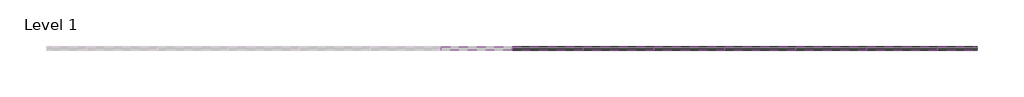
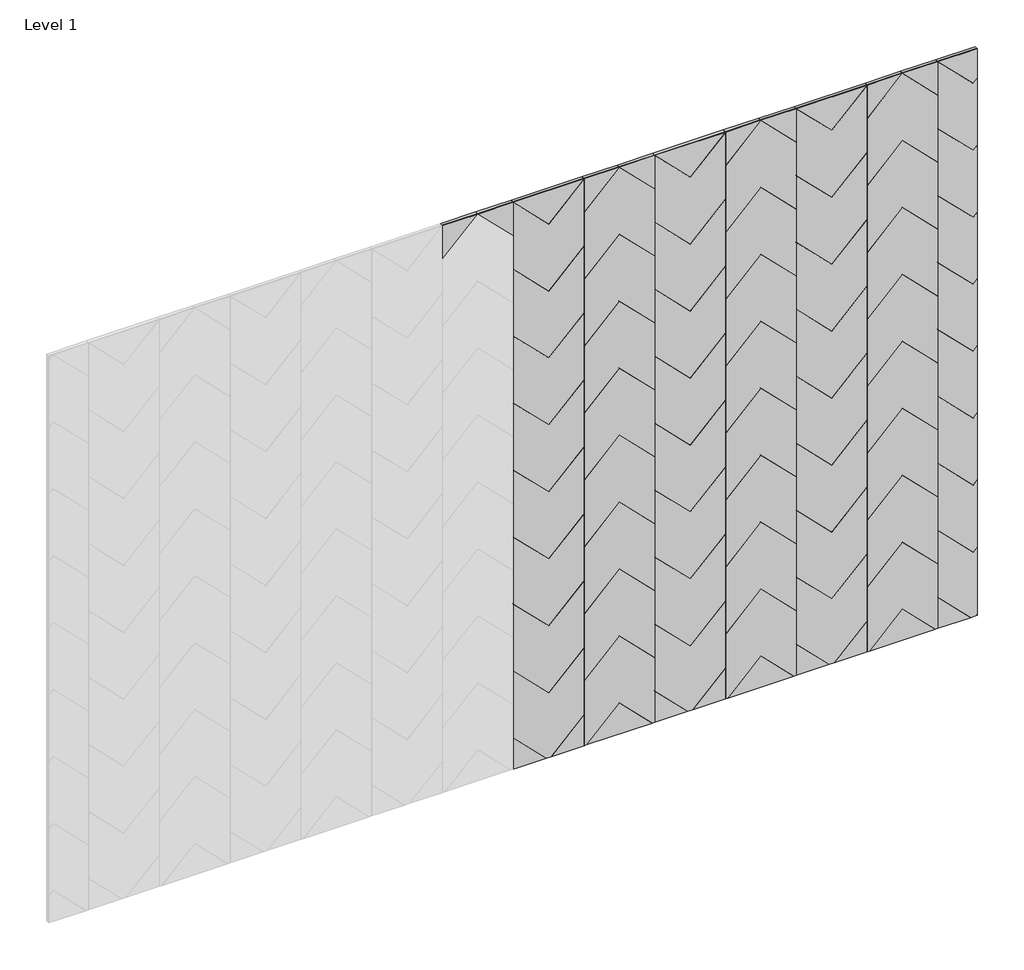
# One storey, part 2 of 2: 71 proxies.
"""IFC4 building model written with IfcOpenShell, lengths in millimetres."""

from ifc_helpers import new_model, si_unit, origin, place, context, project, spatial, transform, mapped, element, save
from components import dart_block_84291ee9, dart_block_d6e125e5, dart_block_31c125ed, dart_block_6d389e56, dart_block_7aee04b3, dart_block_84e837c1, dart_block_36aabd5a, dart_block_a08385c4, dart_block_a8ea429b, dart_block_3c974cb8, dart_block_5830dce5

model = new_model("IFC4")

# Units and contexts
model_context = context("Model", 3, world=origin())
ifc_project = project(units=[si_unit("LENGTHUNIT", "METRE", prefix="MILLI")], contexts=[model_context])

# Site, building, storey
site = spatial("IfcSite", under=ifc_project)
building = spatial("IfcBuilding", under=site)
storey = spatial("IfcBuildingStorey", under=building, Name="Level 1", Elevation=0.0)

# Proxies
placement = place(None, origin())
dart_block_shape = dart_block_84291ee9(model_context)
element("IfcBuildingElementProxy", 1, Name="FilzFelt_Dart_Block : Dart Block", ObjectType="FilzFelt_Dart_Block : Dart Block", at=placement, inside=storey, context=model_context, shape_type="MappedRepresentation", body=[
    mapped(dart_block_shape, transform((7024.9916002, -10315.1339335, 477.5), x_axis=(-1.0, 0.0, 0.0), y_axis=(0.0, 0.0, -1.0), z_axis=(0.0, -1.0, 0.0))),
])
dart_block_2_shape = dart_block_d6e125e5(model_context)
element("IfcBuildingElementProxy", 2, Name="FilzFelt_Dart_Block : Dart Block", ObjectType="FilzFelt_Dart_Block : Dart Block", at=placement, inside=storey, context=model_context, shape_type="MappedRepresentation", body=[
    mapped(dart_block_2_shape, transform((7532.9916002, -10315.1339335, 731.5), x_axis=(-1.0, 0.0, 0.0), y_axis=(0.0, 0.0, -1.0), z_axis=(0.0, -1.0, 0.0))),
])
dart_block_3_shape = dart_block_31c125ed(model_context)
element("IfcBuildingElementProxy", 3, Name="FilzFelt_Dart_Block : Dart Block", ObjectType="FilzFelt_Dart_Block : Dart Block", at=placement, inside=storey, context=model_context, shape_type="MappedRepresentation", body=[
    mapped(dart_block_3_shape, transform((7024.9916002, -10315.1339335, 985.5), x_axis=(-1.0, 0.0, 0.0), y_axis=(0.0, 0.0, -1.0), z_axis=(0.0, -1.0, 0.0))),
])
element("IfcBuildingElementProxy", 4, Name="FilzFelt_Dart_Block : Dart Block", ObjectType="FilzFelt_Dart_Block : Dart Block", at=placement, inside=storey, context=model_context, shape_type="MappedRepresentation", body=[
    mapped(dart_block_3_shape, transform((7024.9916002, -10315.1339335, 1747.5), x_axis=(-1.0, 0.0, 0.0), y_axis=(0.0, 0.0, -1.0), z_axis=(0.0, -1.0, 0.0))),
])
element("IfcBuildingElementProxy", 5, Name="FilzFelt_Dart_Block : Dart Block", ObjectType="FilzFelt_Dart_Block : Dart Block", at=placement, inside=storey, context=model_context, shape_type="MappedRepresentation", body=[
    mapped(dart_block_3_shape, transform((7024.9916002, -10315.1339335, 2255.5), x_axis=(-1.0, 0.0, 0.0), y_axis=(0.0, 0.0, -1.0), z_axis=(0.0, -1.0, 0.0))),
])
element("IfcBuildingElementProxy", 6, Name="FilzFelt_Dart_Block : Dart Block", ObjectType="FilzFelt_Dart_Block : Dart Block", at=placement, inside=storey, context=model_context, shape_type="MappedRepresentation", body=[
    mapped(dart_block_3_shape, transform((7278.9916002, -10315.1339335, 2001.5), x_axis=(1.0, 0.0, 0.0), y_axis=(0.0, 0.0, 1.0), z_axis=(0.0, -1.0, 0.0))),
])
element("IfcBuildingElementProxy", 7, Name="FilzFelt_Dart_Block : Dart Block", ObjectType="FilzFelt_Dart_Block : Dart Block", at=placement, inside=storey, context=model_context, shape_type="MappedRepresentation", body=[
    mapped(dart_block_3_shape, transform((7278.9916002, -10315.1339335, 1239.5), x_axis=(1.0, 0.0, 0.0), y_axis=(0.0, 0.0, 1.0), z_axis=(0.0, -1.0, 0.0))),
])
element("IfcBuildingElementProxy", 8, Name="FilzFelt_Dart_Block : Dart Block", ObjectType="FilzFelt_Dart_Block : Dart Block", at=placement, inside=storey, context=model_context, shape_type="MappedRepresentation", body=[
    mapped(dart_block_3_shape, transform((7532.9916002, -10315.1339335, 985.5), x_axis=(-1.0, 0.0, 0.0), y_axis=(0.0, 0.0, -1.0), z_axis=(0.0, -1.0, 0.0))),
])
element("IfcBuildingElementProxy", 9, Name="FilzFelt_Dart_Block : Dart Block", ObjectType="FilzFelt_Dart_Block : Dart Block", at=placement, inside=storey, context=model_context, shape_type="MappedRepresentation", body=[
    mapped(dart_block_3_shape, transform((7532.9916002, -10315.1339335, 1493.5), x_axis=(-1.0, 0.0, 0.0), y_axis=(0.0, 0.0, -1.0), z_axis=(0.0, -1.0, 0.0))),
])
element("IfcBuildingElementProxy", 10, Name="FilzFelt_Dart_Block : Dart Block", ObjectType="FilzFelt_Dart_Block : Dart Block", at=placement, inside=storey, context=model_context, shape_type="MappedRepresentation", body=[
    mapped(dart_block_3_shape, transform((7532.9916002, -10315.1339335, 2001.5), x_axis=(-1.0, 0.0, 0.0), y_axis=(0.0, 0.0, -1.0), z_axis=(0.0, -1.0, 0.0))),
])
element("IfcBuildingElementProxy", 11, Name="FilzFelt_Dart_Block : Dart Block", ObjectType="FilzFelt_Dart_Block : Dart Block", at=placement, inside=storey, context=model_context, shape_type="MappedRepresentation", body=[
    mapped(dart_block_3_shape, transform((8040.9916002, -10315.1339335, 1239.5), x_axis=(-1.0, 0.0, 0.0), y_axis=(0.0, 0.0, -1.0), z_axis=(0.0, -1.0, 0.0))),
])
element("IfcBuildingElementProxy", 12, Name="FilzFelt_Dart_Block : Dart Block", ObjectType="FilzFelt_Dart_Block : Dart Block", at=placement, inside=storey, context=model_context, shape_type="MappedRepresentation", body=[
    mapped(dart_block_3_shape, transform((8040.9916002, -10315.1339335, 1747.5), x_axis=(-1.0, 0.0, 0.0), y_axis=(0.0, 0.0, -1.0), z_axis=(0.0, -1.0, 0.0))),
])
element("IfcBuildingElementProxy", 13, Name="FilzFelt_Dart_Block : Dart Block", ObjectType="FilzFelt_Dart_Block : Dart Block", at=placement, inside=storey, context=model_context, shape_type="MappedRepresentation", body=[
    mapped(dart_block_3_shape, transform((8040.9916002, -10315.1339335, 2509.5), x_axis=(-1.0, 0.0, 0.0), y_axis=(0.0, 0.0, -1.0), z_axis=(0.0, -1.0, 0.0))),
])
element("IfcBuildingElementProxy", 14, Name="FilzFelt_Dart_Block : Dart Block", ObjectType="FilzFelt_Dart_Block : Dart Block", at=placement, inside=storey, context=model_context, shape_type="MappedRepresentation", body=[
    mapped(dart_block_3_shape, transform((8294.9916002, -10315.1339335, 2255.5), x_axis=(1.0, 0.0, 0.0), y_axis=(0.0, 0.0, 1.0), z_axis=(0.0, -1.0, 0.0))),
])
element("IfcBuildingElementProxy", 15, Name="FilzFelt_Dart_Block : Dart Block", ObjectType="FilzFelt_Dart_Block : Dart Block", at=placement, inside=storey, context=model_context, shape_type="MappedRepresentation", body=[
    mapped(dart_block_3_shape, transform((8294.9916002, -10315.1339335, 1493.5), x_axis=(1.0, 0.0, 0.0), y_axis=(0.0, 0.0, 1.0), z_axis=(0.0, -1.0, 0.0))),
])
element("IfcBuildingElementProxy", 16, Name="FilzFelt_Dart_Block : Dart Block", ObjectType="FilzFelt_Dart_Block : Dart Block", at=placement, inside=storey, context=model_context, shape_type="MappedRepresentation", body=[
    mapped(dart_block_3_shape, transform((8294.9916002, -10315.1339335, 985.5), x_axis=(1.0, 0.0, 0.0), y_axis=(0.0, 0.0, 1.0), z_axis=(0.0, -1.0, 0.0))),
])
element("IfcBuildingElementProxy", 17, Name="FilzFelt_Dart_Block : Dart Block", ObjectType="FilzFelt_Dart_Block : Dart Block", at=placement, inside=storey, context=model_context, shape_type="MappedRepresentation", body=[
    mapped(dart_block_3_shape, transform((7786.9916002, -10315.1339335, 2509.5), x_axis=(1.0, 0.0, 0.0), y_axis=(0.0, 0.0, 1.0), z_axis=(0.0, -1.0, 0.0))),
])
element("IfcBuildingElementProxy", 18, Name="FilzFelt_Dart_Block : Dart Block", ObjectType="FilzFelt_Dart_Block : Dart Block", at=placement, inside=storey, context=model_context, shape_type="MappedRepresentation", body=[
    mapped(dart_block_3_shape, transform((7786.9916002, -10315.1339335, 1747.5), x_axis=(1.0, 0.0, 0.0), y_axis=(0.0, 0.0, 1.0), z_axis=(0.0, -1.0, 0.0))),
])
element("IfcBuildingElementProxy", 19, Name="FilzFelt_Dart_Block : Dart Block", ObjectType="FilzFelt_Dart_Block : Dart Block", at=placement, inside=storey, context=model_context, shape_type="MappedRepresentation", body=[
    mapped(dart_block_3_shape, transform((7786.9916002, -10315.1339335, 985.5), x_axis=(1.0, 0.0, 0.0), y_axis=(0.0, 0.0, 1.0), z_axis=(0.0, -1.0, 0.0))),
])
element("IfcBuildingElementProxy", 20, Name="FilzFelt_Dart_Block : Dart Block", ObjectType="FilzFelt_Dart_Block : Dart Block", at=placement, inside=storey, context=model_context, shape_type="MappedRepresentation", body=[
    mapped(dart_block_3_shape, transform((7024.9916002, -10315.1339335, 1239.5), x_axis=(-1.0, 0.0, 0.0), y_axis=(0.0, 0.0, -1.0), z_axis=(0.0, -1.0, 0.0))),
])
element("IfcBuildingElementProxy", 21, Name="FilzFelt_Dart_Block : Dart Block", ObjectType="FilzFelt_Dart_Block : Dart Block", at=placement, inside=storey, context=model_context, shape_type="MappedRepresentation", body=[
    mapped(dart_block_3_shape, transform((7024.9916002, -10315.1339335, 2001.5), x_axis=(-1.0, 0.0, 0.0), y_axis=(0.0, 0.0, -1.0), z_axis=(0.0, -1.0, 0.0))),
])
element("IfcBuildingElementProxy", 22, Name="FilzFelt_Dart_Block : Dart Block", ObjectType="FilzFelt_Dart_Block : Dart Block", at=placement, inside=storey, context=model_context, shape_type="MappedRepresentation", body=[
    mapped(dart_block_3_shape, transform((7278.9916002, -10315.1339335, 2509.5), x_axis=(1.0, 0.0, 0.0), y_axis=(0.0, 0.0, 1.0), z_axis=(0.0, -1.0, 0.0))),
])
element("IfcBuildingElementProxy", 23, Name="FilzFelt_Dart_Block : Dart Block", ObjectType="FilzFelt_Dart_Block : Dart Block", at=placement, inside=storey, context=model_context, shape_type="MappedRepresentation", body=[
    mapped(dart_block_3_shape, transform((7278.9916002, -10315.1339335, 1493.5), x_axis=(1.0, 0.0, 0.0), y_axis=(0.0, 0.0, 1.0), z_axis=(0.0, -1.0, 0.0))),
])
element("IfcBuildingElementProxy", 24, Name="FilzFelt_Dart_Block : Dart Block", ObjectType="FilzFelt_Dart_Block : Dart Block", at=placement, inside=storey, context=model_context, shape_type="MappedRepresentation", body=[
    mapped(dart_block_3_shape, transform((7532.9916002, -10315.1339335, 1239.5), x_axis=(-1.0, 0.0, 0.0), y_axis=(0.0, 0.0, -1.0), z_axis=(0.0, -1.0, 0.0))),
])
element("IfcBuildingElementProxy", 25, Name="FilzFelt_Dart_Block : Dart Block", ObjectType="FilzFelt_Dart_Block : Dart Block", at=placement, inside=storey, context=model_context, shape_type="MappedRepresentation", body=[
    mapped(dart_block_3_shape, transform((7532.9916002, -10315.1339335, 1747.5), x_axis=(-1.0, 0.0, 0.0), y_axis=(0.0, 0.0, -1.0), z_axis=(0.0, -1.0, 0.0))),
])
element("IfcBuildingElementProxy", 26, Name="FilzFelt_Dart_Block : Dart Block", ObjectType="FilzFelt_Dart_Block : Dart Block", at=placement, inside=storey, context=model_context, shape_type="MappedRepresentation", body=[
    mapped(dart_block_3_shape, transform((7532.9916002, -10315.1339335, 2255.5), x_axis=(-1.0, 0.0, 0.0), y_axis=(0.0, 0.0, -1.0), z_axis=(0.0, -1.0, 0.0))),
])
element("IfcBuildingElementProxy", 27, Name="FilzFelt_Dart_Block : Dart Block", ObjectType="FilzFelt_Dart_Block : Dart Block", at=placement, inside=storey, context=model_context, shape_type="MappedRepresentation", body=[
    mapped(dart_block_3_shape, transform((8040.9916002, -10315.1339335, 1493.5), x_axis=(-1.0, 0.0, 0.0), y_axis=(0.0, 0.0, -1.0), z_axis=(0.0, -1.0, 0.0))),
])
element("IfcBuildingElementProxy", 28, Name="FilzFelt_Dart_Block : Dart Block", ObjectType="FilzFelt_Dart_Block : Dart Block", at=placement, inside=storey, context=model_context, shape_type="MappedRepresentation", body=[
    mapped(dart_block_3_shape, transform((8040.9916002, -10315.1339335, 2001.5), x_axis=(-1.0, 0.0, 0.0), y_axis=(0.0, 0.0, -1.0), z_axis=(0.0, -1.0, 0.0))),
])
element("IfcBuildingElementProxy", 29, Name="FilzFelt_Dart_Block : Dart Block", ObjectType="FilzFelt_Dart_Block : Dart Block", at=placement, inside=storey, context=model_context, shape_type="MappedRepresentation", body=[
    mapped(dart_block_3_shape, transform((8294.9916002, -10315.1339335, 2001.5), x_axis=(1.0, 0.0, 0.0), y_axis=(0.0, 0.0, 1.0), z_axis=(0.0, -1.0, 0.0))),
])
element("IfcBuildingElementProxy", 30, Name="FilzFelt_Dart_Block : Dart Block", ObjectType="FilzFelt_Dart_Block : Dart Block", at=placement, inside=storey, context=model_context, shape_type="MappedRepresentation", body=[
    mapped(dart_block_3_shape, transform((8294.9916002, -10315.1339335, 1239.5), x_axis=(1.0, 0.0, 0.0), y_axis=(0.0, 0.0, 1.0), z_axis=(0.0, -1.0, 0.0))),
])
element("IfcBuildingElementProxy", 31, Name="FilzFelt_Dart_Block : Dart Block", ObjectType="FilzFelt_Dart_Block : Dart Block", at=placement, inside=storey, context=model_context, shape_type="MappedRepresentation", body=[
    mapped(dart_block_3_shape, transform((7786.9916002, -10315.1339335, 2255.5), x_axis=(1.0, 0.0, 0.0), y_axis=(0.0, 0.0, 1.0), z_axis=(0.0, -1.0, 0.0))),
])
element("IfcBuildingElementProxy", 32, Name="FilzFelt_Dart_Block : Dart Block", ObjectType="FilzFelt_Dart_Block : Dart Block", at=placement, inside=storey, context=model_context, shape_type="MappedRepresentation", body=[
    mapped(dart_block_3_shape, transform((7786.9916002, -10315.1339335, 1239.5), x_axis=(1.0, 0.0, 0.0), y_axis=(0.0, 0.0, 1.0), z_axis=(0.0, -1.0, 0.0))),
])
element("IfcBuildingElementProxy", 33, Name="FilzFelt_Dart_Block : Dart Block", ObjectType="FilzFelt_Dart_Block : Dart Block", at=placement, inside=storey, context=model_context, shape_type="MappedRepresentation", body=[
    mapped(dart_block_3_shape, transform((7024.9916002, -10315.1339335, 1493.5), x_axis=(-1.0, 0.0, 0.0), y_axis=(0.0, 0.0, -1.0), z_axis=(0.0, -1.0, 0.0))),
])
element("IfcBuildingElementProxy", 34, Name="FilzFelt_Dart_Block : Dart Block", ObjectType="FilzFelt_Dart_Block : Dart Block", at=placement, inside=storey, context=model_context, shape_type="MappedRepresentation", body=[
    mapped(dart_block_3_shape, transform((7024.9916002, -10315.1339335, 2509.5), x_axis=(-1.0, 0.0, 0.0), y_axis=(0.0, 0.0, -1.0), z_axis=(0.0, -1.0, 0.0))),
])
element("IfcBuildingElementProxy", 35, Name="FilzFelt_Dart_Block : Dart Block", ObjectType="FilzFelt_Dart_Block : Dart Block", at=placement, inside=storey, context=model_context, shape_type="MappedRepresentation", body=[
    mapped(dart_block_3_shape, transform((7278.9916002, -10315.1339335, 2255.5), x_axis=(1.0, 0.0, 0.0), y_axis=(0.0, 0.0, 1.0), z_axis=(0.0, -1.0, 0.0))),
])
element("IfcBuildingElementProxy", 36, Name="FilzFelt_Dart_Block : Dart Block", ObjectType="FilzFelt_Dart_Block : Dart Block", at=placement, inside=storey, context=model_context, shape_type="MappedRepresentation", body=[
    mapped(dart_block_3_shape, transform((7278.9916002, -10315.1339335, 1747.5), x_axis=(1.0, 0.0, 0.0), y_axis=(0.0, 0.0, 1.0), z_axis=(0.0, -1.0, 0.0))),
])
element("IfcBuildingElementProxy", 37, Name="FilzFelt_Dart_Block : Dart Block", ObjectType="FilzFelt_Dart_Block : Dart Block", at=placement, inside=storey, context=model_context, shape_type="MappedRepresentation", body=[
    mapped(dart_block_3_shape, transform((7278.9916002, -10315.1339335, 985.5), x_axis=(1.0, 0.0, 0.0), y_axis=(0.0, 0.0, 1.0), z_axis=(0.0, -1.0, 0.0))),
])
element("IfcBuildingElementProxy", 38, Name="FilzFelt_Dart_Block : Dart Block", ObjectType="FilzFelt_Dart_Block : Dart Block", at=placement, inside=storey, context=model_context, shape_type="MappedRepresentation", body=[
    mapped(dart_block_3_shape, transform((7532.9916002, -10315.1339335, 2509.5), x_axis=(-1.0, 0.0, 0.0), y_axis=(0.0, 0.0, -1.0), z_axis=(0.0, -1.0, 0.0))),
])
element("IfcBuildingElementProxy", 39, Name="FilzFelt_Dart_Block : Dart Block", ObjectType="FilzFelt_Dart_Block : Dart Block", at=placement, inside=storey, context=model_context, shape_type="MappedRepresentation", body=[
    mapped(dart_block_3_shape, transform((8040.9916002, -10315.1339335, 985.5), x_axis=(-1.0, 0.0, 0.0), y_axis=(0.0, 0.0, -1.0), z_axis=(0.0, -1.0, 0.0))),
])
element("IfcBuildingElementProxy", 40, Name="FilzFelt_Dart_Block : Dart Block", ObjectType="FilzFelt_Dart_Block : Dart Block", at=placement, inside=storey, context=model_context, shape_type="MappedRepresentation", body=[
    mapped(dart_block_3_shape, transform((8040.9916002, -10315.1339335, 2255.5), x_axis=(-1.0, 0.0, 0.0), y_axis=(0.0, 0.0, -1.0), z_axis=(0.0, -1.0, 0.0))),
])
element("IfcBuildingElementProxy", 41, Name="FilzFelt_Dart_Block : Dart Block", ObjectType="FilzFelt_Dart_Block : Dart Block", at=placement, inside=storey, context=model_context, shape_type="MappedRepresentation", body=[
    mapped(dart_block_3_shape, transform((8294.9916002, -10315.1339335, 2509.5), x_axis=(1.0, 0.0, 0.0), y_axis=(0.0, 0.0, 1.0), z_axis=(0.0, -1.0, 0.0))),
])
element("IfcBuildingElementProxy", 42, Name="FilzFelt_Dart_Block : Dart Block", ObjectType="FilzFelt_Dart_Block : Dart Block", at=placement, inside=storey, context=model_context, shape_type="MappedRepresentation", body=[
    mapped(dart_block_3_shape, transform((8294.9916002, -10315.1339335, 1747.5), x_axis=(1.0, 0.0, 0.0), y_axis=(0.0, 0.0, 1.0), z_axis=(0.0, -1.0, 0.0))),
])
element("IfcBuildingElementProxy", 43, Name="FilzFelt_Dart_Block : Dart Block", ObjectType="FilzFelt_Dart_Block : Dart Block", at=placement, inside=storey, context=model_context, shape_type="MappedRepresentation", body=[
    mapped(dart_block_3_shape, transform((7786.9916002, -10315.1339335, 2001.5), x_axis=(1.0, 0.0, 0.0), y_axis=(0.0, 0.0, 1.0), z_axis=(0.0, -1.0, 0.0))),
])
element("IfcBuildingElementProxy", 44, Name="FilzFelt_Dart_Block : Dart Block", ObjectType="FilzFelt_Dart_Block : Dart Block", at=placement, inside=storey, context=model_context, shape_type="MappedRepresentation", body=[
    mapped(dart_block_3_shape, transform((7786.9916002, -10315.1339335, 1493.5), x_axis=(1.0, 0.0, 0.0), y_axis=(0.0, 0.0, 1.0), z_axis=(0.0, -1.0, 0.0))),
])
dart_block_4_shape = dart_block_6d389e56(model_context)
element("IfcBuildingElementProxy", 45, Name="FilzFelt_Dart_Block : Dart Block", ObjectType="FilzFelt_Dart_Block : Dart Block", at=placement, inside=storey, context=model_context, shape_type="MappedRepresentation", body=[
    mapped(dart_block_4_shape, transform((7532.9916002, -10315.1339335, 2763.5), x_axis=(-1.0, 0.0, 0.0), y_axis=(0.0, 0.0, -1.0), z_axis=(0.0, -1.0, 0.0))),
])
element("IfcBuildingElementProxy", 46, Name="FilzFelt_Dart_Block : Dart Block", ObjectType="FilzFelt_Dart_Block : Dart Block", at=placement, inside=storey, context=model_context, shape_type="MappedRepresentation", body=[
    mapped(dart_block_4_shape, transform((8040.9916002, -10315.1339335, 2763.5), x_axis=(-1.0, 0.0, 0.0), y_axis=(0.0, 0.0, -1.0), z_axis=(0.0, -1.0, 0.0))),
])
dart_block_5_shape = dart_block_7aee04b3(model_context)
element("IfcBuildingElementProxy", 47, Name="FilzFelt_Dart_Block : Dart Block", ObjectType="FilzFelt_Dart_Block : Dart Block", at=placement, inside=storey, context=model_context, shape_type="MappedRepresentation", body=[
    mapped(dart_block_5_shape, transform((8294.9916002, -10315.1339335, 477.5), x_axis=(1.0, 0.0, 0.0), y_axis=(0.0, 0.0, 1.0), z_axis=(0.0, -1.0, 0.0))),
])
element("IfcBuildingElementProxy", 48, Name="FilzFelt_Dart_Block : Dart Block", ObjectType="FilzFelt_Dart_Block : Dart Block", at=placement, inside=storey, context=model_context, shape_type="MappedRepresentation", body=[
    mapped(dart_block_5_shape, transform((7278.9916002, -10315.1339335, 477.5), x_axis=(1.0, 0.0, 0.0), y_axis=(0.0, 0.0, 1.0), z_axis=(0.0, -1.0, 0.0))),
])
element("IfcBuildingElementProxy", 49, Name="FilzFelt_Dart_Block : Dart Block", ObjectType="FilzFelt_Dart_Block : Dart Block", at=placement, inside=storey, context=model_context, shape_type="MappedRepresentation", body=[
    mapped(dart_block_5_shape, transform((7786.9916002, -10315.1339335, 477.5), x_axis=(1.0, 0.0, 0.0), y_axis=(0.0, 0.0, 1.0), z_axis=(0.0, -1.0, 0.0))),
])
dart_block_6_shape = dart_block_84e837c1(model_context)
element("IfcBuildingElementProxy", 50, Name="FilzFelt_Dart_Block : Dart Block", ObjectType="FilzFelt_Dart_Block : Dart Block", at=placement, inside=storey, context=model_context, shape_type="MappedRepresentation", body=[
    mapped(dart_block_6_shape, transform((7278.9916002, -10315.1339335, 2763.5), x_axis=(1.0, 0.0, 0.0), y_axis=(0.0, 0.0, 1.0), z_axis=(0.0, -1.0, 0.0))),
])
element("IfcBuildingElementProxy", 51, Name="FilzFelt_Dart_Block : Dart Block", ObjectType="FilzFelt_Dart_Block : Dart Block", at=placement, inside=storey, context=model_context, shape_type="MappedRepresentation", body=[
    mapped(dart_block_6_shape, transform((6770.9916002, -10315.1339335, 2763.5), x_axis=(1.0, 0.0, 0.0), y_axis=(0.0, 0.0, 1.0), z_axis=(0.0, -1.0, 0.0))),
])
element("IfcBuildingElementProxy", 52, Name="FilzFelt_Dart_Block : Dart Block", ObjectType="FilzFelt_Dart_Block : Dart Block", at=placement, inside=storey, context=model_context, shape_type="MappedRepresentation", body=[
    mapped(dart_block_4_shape, transform((7024.9916002, -10315.1339335, 2763.5), x_axis=(-1.0, 0.0, 0.0), y_axis=(0.0, 0.0, -1.0), z_axis=(0.0, -1.0, 0.0))),
])
dart_block_7_shape = dart_block_36aabd5a(model_context)
element("IfcBuildingElementProxy", 53, Name="FilzFelt_Dart_Block : Dart Block", ObjectType="FilzFelt_Dart_Block : Dart Block", at=placement, inside=storey, context=model_context, shape_type="MappedRepresentation", body=[
    mapped(dart_block_7_shape, transform((8548.9916002, -10315.1339335, 1747.5), x_axis=(-1.0, 0.0, 0.0), y_axis=(0.0, 0.0, -1.0), z_axis=(0.0, -1.0, 0.0))),
])
element("IfcBuildingElementProxy", 54, Name="FilzFelt_Dart_Block : Dart Block", ObjectType="FilzFelt_Dart_Block : Dart Block", at=placement, inside=storey, context=model_context, shape_type="MappedRepresentation", body=[
    mapped(dart_block_7_shape, transform((8548.9916002, -10315.1339335, 2509.5), x_axis=(-1.0, 0.0, 0.0), y_axis=(0.0, 0.0, -1.0), z_axis=(0.0, -1.0, 0.0))),
])
element("IfcBuildingElementProxy", 55, Name="FilzFelt_Dart_Block : Dart Block", ObjectType="FilzFelt_Dart_Block : Dart Block", at=placement, inside=storey, context=model_context, shape_type="MappedRepresentation", body=[
    mapped(dart_block_6_shape, transform((8294.9916002, -10315.1339335, 2763.5), x_axis=(1.0, 0.0, 0.0), y_axis=(0.0, 0.0, 1.0), z_axis=(0.0, -1.0, 0.0))),
])
element("IfcBuildingElementProxy", 56, Name="FilzFelt_Dart_Block : Dart Block", ObjectType="FilzFelt_Dart_Block : Dart Block", at=placement, inside=storey, context=model_context, shape_type="MappedRepresentation", body=[
    mapped(dart_block_6_shape, transform((7786.9916002, -10315.1339335, 2763.5), x_axis=(1.0, 0.0, 0.0), y_axis=(0.0, 0.0, 1.0), z_axis=(0.0, -1.0, 0.0))),
])
element("IfcBuildingElementProxy", 57, Name="FilzFelt_Dart_Block : Dart Block", ObjectType="FilzFelt_Dart_Block : Dart Block", at=placement, inside=storey, context=model_context, shape_type="MappedRepresentation", body=[
    mapped(dart_block_2_shape, transform((8040.9916002, -10315.1339335, 731.5), x_axis=(-1.0, 0.0, 0.0), y_axis=(0.0, 0.0, -1.0), z_axis=(0.0, -1.0, 0.0))),
])
element("IfcBuildingElementProxy", 58, Name="FilzFelt_Dart_Block : Dart Block", ObjectType="FilzFelt_Dart_Block : Dart Block", at=placement, inside=storey, context=model_context, shape_type="MappedRepresentation", body=[
    mapped(dart_block_2_shape, transform((7024.9916002, -10315.1339335, 731.5), x_axis=(-1.0, 0.0, 0.0), y_axis=(0.0, 0.0, -1.0), z_axis=(0.0, -1.0, 0.0))),
])
dart_block_8_shape = dart_block_a08385c4(model_context)
element("IfcBuildingElementProxy", 59, Name="FilzFelt_Dart_Block : Dart Block", ObjectType="FilzFelt_Dart_Block : Dart Block", at=placement, inside=storey, context=model_context, shape_type="MappedRepresentation", body=[
    mapped(dart_block_8_shape, transform((7278.9916002, -10315.1339335, 731.5), x_axis=(1.0, 0.0, 0.0), y_axis=(0.0, 0.0, 1.0), z_axis=(0.0, -1.0, 0.0))),
])
element("IfcBuildingElementProxy", 60, Name="FilzFelt_Dart_Block : Dart Block", ObjectType="FilzFelt_Dart_Block : Dart Block", at=placement, inside=storey, context=model_context, shape_type="MappedRepresentation", body=[
    mapped(dart_block_7_shape, transform((8548.9916002, -10315.1339335, 985.5), x_axis=(-1.0, 0.0, 0.0), y_axis=(0.0, 0.0, -1.0), z_axis=(0.0, -1.0, 0.0))),
])
element("IfcBuildingElementProxy", 61, Name="FilzFelt_Dart_Block : Dart Block", ObjectType="FilzFelt_Dart_Block : Dart Block", at=placement, inside=storey, context=model_context, shape_type="MappedRepresentation", body=[
    mapped(dart_block_7_shape, transform((8548.9916002, -10315.1339335, 1493.5), x_axis=(-1.0, 0.0, 0.0), y_axis=(0.0, 0.0, -1.0), z_axis=(0.0, -1.0, 0.0))),
])
element("IfcBuildingElementProxy", 62, Name="FilzFelt_Dart_Block : Dart Block", ObjectType="FilzFelt_Dart_Block : Dart Block", at=placement, inside=storey, context=model_context, shape_type="MappedRepresentation", body=[
    mapped(dart_block_7_shape, transform((8548.9916002, -10315.1339335, 2255.5), x_axis=(-1.0, 0.0, 0.0), y_axis=(0.0, 0.0, -1.0), z_axis=(0.0, -1.0, 0.0))),
])
dart_block_9_shape = dart_block_a8ea429b(model_context)
element("IfcBuildingElementProxy", 63, Name="FilzFelt_Dart_Block : Dart Block", ObjectType="FilzFelt_Dart_Block : Dart Block", at=placement, inside=storey, context=model_context, shape_type="MappedRepresentation", body=[
    mapped(dart_block_9_shape, transform((8548.9916002, -10315.1339335, 2763.5), x_axis=(-1.0, 0.0, 0.0), y_axis=(0.0, 0.0, -1.0), z_axis=(0.0, -1.0, 0.0))),
])
element("IfcBuildingElementProxy", 64, Name="FilzFelt_Dart_Block : Dart Block", ObjectType="FilzFelt_Dart_Block : Dart Block", at=placement, inside=storey, context=model_context, shape_type="MappedRepresentation", body=[
    mapped(dart_block_shape, transform((7532.9916002, -10315.1339335, 477.5), x_axis=(-1.0, 0.0, 0.0), y_axis=(0.0, 0.0, -1.0), z_axis=(0.0, -1.0, 0.0))),
])
dart_block_10_shape = dart_block_3c974cb8(model_context)
element("IfcBuildingElementProxy", 65, Name="FilzFelt_Dart_Block : Dart Block", ObjectType="FilzFelt_Dart_Block : Dart Block", at=placement, inside=storey, context=model_context, shape_type="MappedRepresentation", body=[
    mapped(dart_block_10_shape, transform((8548.9916002, -10315.1339335, 477.5), x_axis=(-1.0, 0.0, 0.0), y_axis=(0.0, 0.0, -1.0), z_axis=(0.0, -1.0, 0.0))),
])
element("IfcBuildingElementProxy", 66, Name="FilzFelt_Dart_Block : Dart Block", ObjectType="FilzFelt_Dart_Block : Dart Block", at=placement, inside=storey, context=model_context, shape_type="MappedRepresentation", body=[
    mapped(dart_block_8_shape, transform((8294.9916002, -10315.1339335, 731.5), x_axis=(1.0, 0.0, 0.0), y_axis=(0.0, 0.0, 1.0), z_axis=(0.0, -1.0, 0.0))),
])
element("IfcBuildingElementProxy", 67, Name="FilzFelt_Dart_Block : Dart Block", ObjectType="FilzFelt_Dart_Block : Dart Block", at=placement, inside=storey, context=model_context, shape_type="MappedRepresentation", body=[
    mapped(dart_block_8_shape, transform((7786.9916002, -10315.1339335, 731.5), x_axis=(1.0, 0.0, 0.0), y_axis=(0.0, 0.0, 1.0), z_axis=(0.0, -1.0, 0.0))),
])
element("IfcBuildingElementProxy", 68, Name="FilzFelt_Dart_Block : Dart Block", ObjectType="FilzFelt_Dart_Block : Dart Block", at=placement, inside=storey, context=model_context, shape_type="MappedRepresentation", body=[
    mapped(dart_block_shape, transform((8040.9916002, -10315.1339335, 477.5), x_axis=(-1.0, 0.0, 0.0), y_axis=(0.0, 0.0, -1.0), z_axis=(0.0, -1.0, 0.0))),
])
element("IfcBuildingElementProxy", 69, Name="FilzFelt_Dart_Block : Dart Block", ObjectType="FilzFelt_Dart_Block : Dart Block", at=placement, inside=storey, context=model_context, shape_type="MappedRepresentation", body=[
    mapped(dart_block_7_shape, transform((8548.9916002, -10315.1339335, 1239.5), x_axis=(-1.0, 0.0, 0.0), y_axis=(0.0, 0.0, -1.0), z_axis=(0.0, -1.0, 0.0))),
])
element("IfcBuildingElementProxy", 70, Name="FilzFelt_Dart_Block : Dart Block", ObjectType="FilzFelt_Dart_Block : Dart Block", at=placement, inside=storey, context=model_context, shape_type="MappedRepresentation", body=[
    mapped(dart_block_7_shape, transform((8548.9916002, -10315.1339335, 2001.5), x_axis=(-1.0, 0.0, 0.0), y_axis=(0.0, 0.0, -1.0), z_axis=(0.0, -1.0, 0.0))),
])
dart_block_11_shape = dart_block_5830dce5(model_context)
element("IfcBuildingElementProxy", 71, Name="FilzFelt_Dart_Block : Dart Block", ObjectType="FilzFelt_Dart_Block : Dart Block", at=placement, inside=storey, context=model_context, shape_type="MappedRepresentation", body=[
    mapped(dart_block_11_shape, transform((8548.9916002, -10315.1339335, 731.5), x_axis=(-1.0, 0.0, 0.0), y_axis=(0.0, 0.0, -1.0), z_axis=(0.0, -1.0, 0.0))),
])

save(model, "model.ifc")
